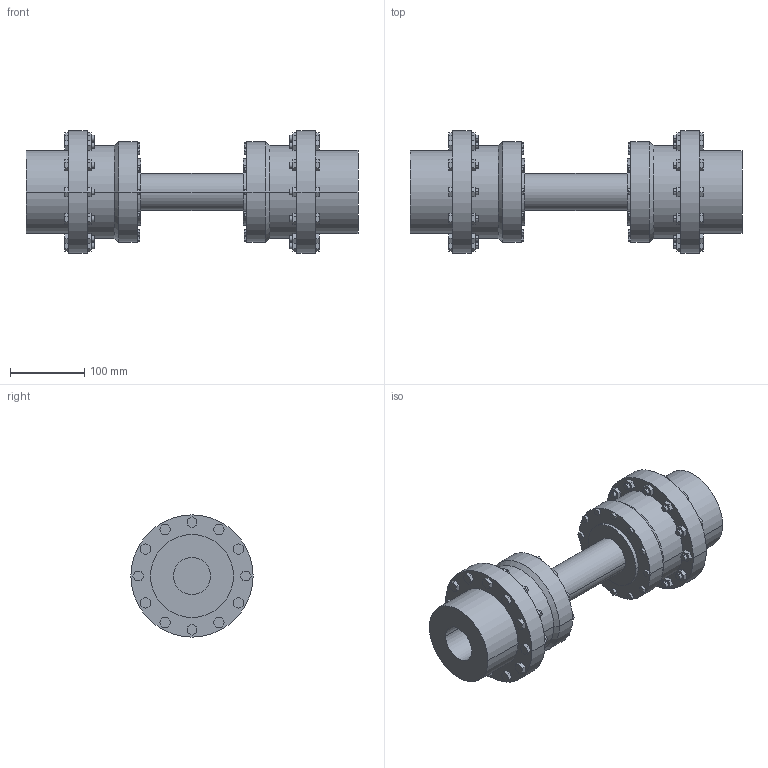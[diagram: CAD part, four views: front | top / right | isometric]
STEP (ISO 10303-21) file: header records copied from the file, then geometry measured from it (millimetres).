
FILE_DESCRIPTION((''),'2;1');
FILE_NAME('A19067200-0_ASM','2018-11-28T',('AB_Roschiwal'),('RENK AG'),'PRO/ENGINEER BY PARAMETRIC TECHNOLOGY CORPORATION, 2015440','PRO/ENGINEER BY PARAMETRIC TECHNOLOGY CORPORATION, 2015440','');
FILE_SCHEMA(('CONFIG_CONTROL_DESIGN'));
Length unit declared in the file: millimetre
Products named in the file (4): SBGK60_GEHAEUSE; SBGK60_NABE; SBGK60_WELLE; A19067200-0_ASM
Assembly tree (5 placements, depth 2):
  A19067200-0_ASM
    SBGK60_GEHAEUSE  x2
    SBGK60_NABE  x2
    SBGK60_WELLE
Bounding box: 448 x 165 x 165 mm (x, y, z)
Volume: 3859099.8 mm3; surface area: 480071.8 mm2
Topology: 5 solids, 5 shells, 660 faces, 1606 edges, 1068 vertices
Faces by surface type: plane 554, cylinder 102, cone 4
Entity records: 9734 total; most frequent: CARTESIAN_POINT 1683, ORIENTED_EDGE 1612, DIRECTION 1592, EDGE_CURVE 806, VECTOR 702, LINE 702, VERTEX_POINT 536, AXIS2_PLACEMENT_3D 445
